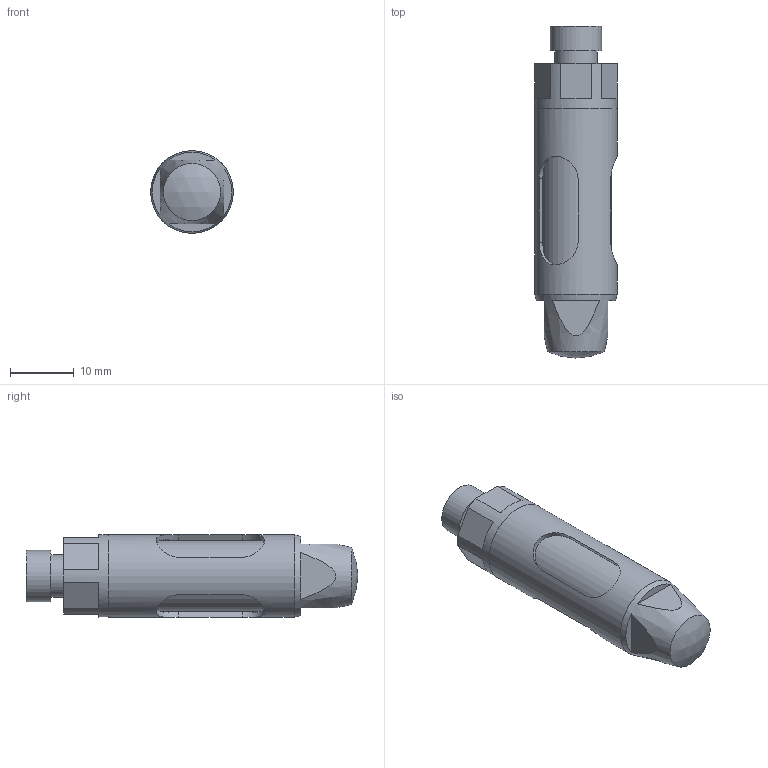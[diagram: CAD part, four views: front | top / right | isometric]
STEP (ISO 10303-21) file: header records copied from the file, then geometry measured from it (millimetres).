
FILE_DESCRIPTION(/* description */ (''),/* implementation_level */ '2;1');
FILE_NAME(/* name */ 'T:\Anwender\Praktikant\Tobias Könemund\Innengreifer\Parametrisch\G-GI013_vereinfacht.stp',/* time_stamp */ '2015-10-30T08:20:02+01:00',/* author */ ('Praktikant'),/* organization */ ('GRIP GmbH'),/* preprocessor_version */ 'ST-DEVELOPER v15.2',/* originating_system */ 'Autodesk Inventor 2014',/* authorisation */ '');
FILE_SCHEMA (('AUTOMOTIVE_DESIGN { 1 0 10303 214 3 1 1 }'));
Length unit declared in the file: millimetre
Products named in the file (3): G-GI013-2.1-1 Dorn_vereinfacht-08; G-GI013-1.1-1 Hülse_vereinfacht-11; Baugruppe_vereinfacht
Bounding box: 12.9 x 52 x 12.9 mm (x, y, z)
Volume: 5211.7 mm3; surface area: 3951.1 mm2
Topology: 2 solids, 2 shells, 49 faces, 115 edges, 76 vertices
Faces by surface type: plane 33, cylinder 13, cone 2, sphere 1
Full cylindrical faces by diameter (mm): 5 x1, 6.6 x1, 8 x1, 11.1 x1, 11.3 x1, 12.9 x2
Entity records: 1554 total; most frequent: CARTESIAN_POINT 434, DIRECTION 220, ORIENTED_EDGE 196, EDGE_CURVE 98, AXIS2_PLACEMENT_3D 84, EDGE_LOOP 72, VERTEX_POINT 70, LINE 52
